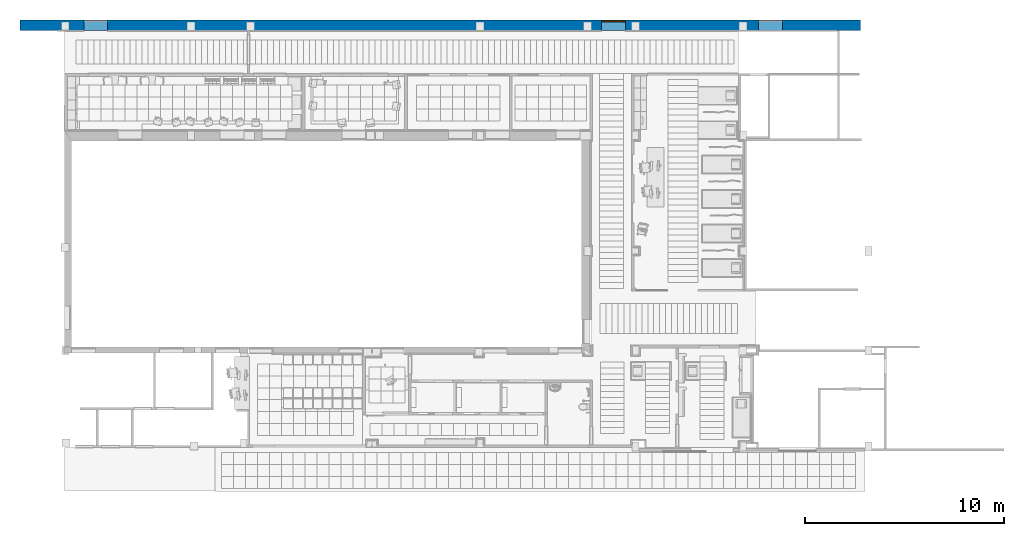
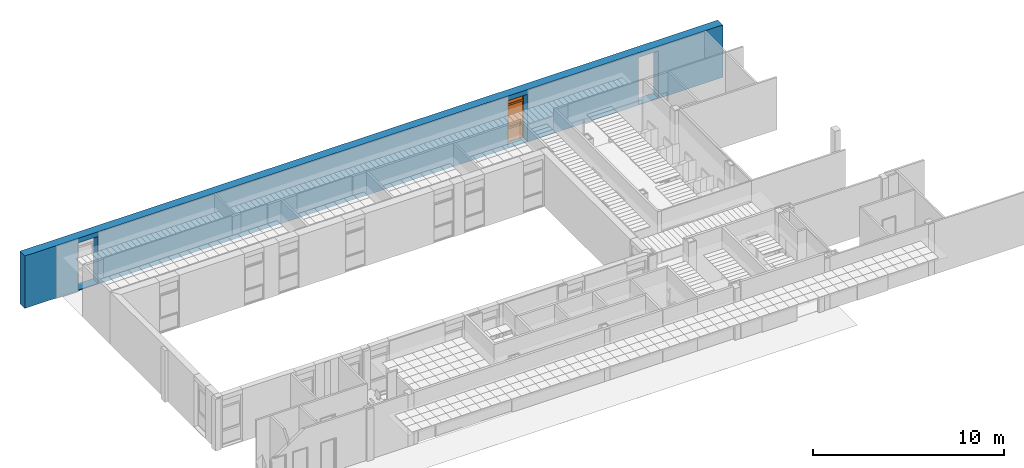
# One storey, part 41 of 68: 1 proxy, 1 wall, 3 openings.
"""IFC2X3 building model written with IfcOpenShell, lengths in millimetres."""

from ifc_helpers import new_model, entity, si_unit, converted_unit, derived_unit, money_unit, direction, frame, origin_with_axes, origin_2d_with_axis, place, context, subcontext, project, spatial, polyline, rectangle, outline, extrude, open_shell, faceted_brep, surface_model, source, transform, mapped, material, layer, layer_set, layer_usage, type_object, element, fill, save


model = new_model("IFC2X3")

# Units and contexts
model_context = context("Model", 3, precision=0.01, world=origin_with_axes(), true_north=direction((0.0, 1.0)))
body_context = subcontext(model_context, "Body", "Model", "MODEL_VIEW")
ifc_project = project(units=[si_unit("LENGTHUNIT", "METRE", prefix="MILLI"), si_unit("AREAUNIT", "SQUARE_METRE"), si_unit("VOLUMEUNIT", "CUBIC_METRE"), converted_unit("PLANEANGLEUNIT", "DEGREE", entity("IfcPlaneAngleMeasure", 0.0174532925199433), si_unit("PLANEANGLEUNIT", "RADIAN"), dimensions=[0, 0, 0, 0, 0, 0, 0]), money_unit("USD"), converted_unit("TIMEUNIT", "Year", entity("IfcTimeMeasure", 31557600.0), si_unit("TIMEUNIT", "SECOND"), dimensions=[0, 0, 1, 0, 0, 0, 0]), si_unit("MASSUNIT", "GRAM", prefix="KILO"), si_unit("THERMODYNAMICTEMPERATUREUNIT", "DEGREE_CELSIUS"), si_unit("LUMINOUSINTENSITYUNIT", "LUMEN"), si_unit("ENERGYUNIT", "JOULE", prefix="MEGA"), derived_unit("THERMALCONDUCTANCEUNIT", [(si_unit("POWERUNIT", "WATT"), 1), (si_unit("LENGTHUNIT", "METRE"), -1), (si_unit("THERMODYNAMICTEMPERATUREUNIT", "KELVIN"), -1)]), derived_unit("SPECIFICHEATCAPACITYUNIT", [(si_unit("ENERGYUNIT", "JOULE"), 1), (si_unit("MASSUNIT", "GRAM", prefix="KILO"), -1), (si_unit("THERMODYNAMICTEMPERATUREUNIT", "KELVIN"), -1)]), derived_unit("MASSDENSITYUNIT", [(si_unit("MASSUNIT", "GRAM", prefix="KILO"), 1), (si_unit("VOLUMEUNIT", "CUBIC_METRE"), -1)])], contexts=[model_context])

# Site, building, storey
site_placement = place(None, origin_with_axes())
site = spatial("IfcSite", under=ifc_project, at=site_placement, Name="Sitio", CompositionType="ELEMENT")
building_placement = place(site_placement, origin_with_axes())
building = spatial("IfcBuilding", under=site, at=building_placement, Name="Construcción", CompositionType="ELEMENT")
storey_placement = place(building_placement, origin_with_axes())
storey = spatial("IfcBuildingStorey", under=building, at=storey_placement, Name="PLANTA 1ª", CompositionType="ELEMENT", Elevation=0.0)

# Wall, openings, proxy
ifc_material_1 = material(Name="ARQ_CE217_Gero")
ifc_layer_1 = layer(ifc_material_1, 100.0, ventilated="UNKNOWN")
ifc_material_2 = material(Name="ARQ_AI031_Aillament_Poliestireno expandido EPS")
ifc_layer_2 = layer(ifc_material_2, 205.0, ventilated="UNKNOWN")
ifc_material_3 = material(Name="ARQ_CE218_Ceramic")
ifc_layer_3 = layer(ifc_material_3, 200.0, ventilated="UNKNOWN")
ifc_material_4 = material(Name="ARQ_AM246_Arrebossat_De_Guix")
ifc_layer_4 = layer(ifc_material_4, 10.0, ventilated="UNKNOWN")
ifc_layer_set = layer_set([ifc_layer_1, ifc_layer_2, ifc_layer_3, ifc_layer_4], Name="façana pati CR5")
ifc_layer_usage = layer_usage(ifc_layer_set, "AXIS2", "NEGATIVE", 515.0)
wall_type = type_object("IfcWallType", Name="façana pati CR5 515", PredefinedType="NOTDEFINED")
wall_placement = place(storey_placement, frame((11882.64037720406, 4378.454186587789, 0.0), z_axis=(0.0, 0.0, 1.0), x_axis=(-1.0, 0.0, 0.0)))
wall = element("IfcWallStandardCase", 1, at=wall_placement, inside=storey, type_object=wall_type, material=ifc_layer_usage, Name="MS-201", context=body_context, shape_type="SweptSolid", body=[
    extrude(outline(polyline([(0.0, 0.0), (42162.71352873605, 0.0), (42162.71352873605, 515.0000000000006), (0.0, 515.0000000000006), (0.0, 0.0)])), origin_with_axes(), (0.0, 0.0, 1.0), 3350.0),
])
opening_1_placement = place(wall_placement, frame((12393.17017963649, 0.0, 50.0), z_axis=(0.0, 0.0, 1.0), x_axis=(1.0, 0.0, 0.0)))
opening_1 = element("IfcOpeningElement", 2, at=opening_1_placement, cuts=wall, Name="V - 008", context=body_context, shape_type="SweptSolid", body=[
    extrude(rectangle(XDim=1199.999999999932, YDim=3000.0, at=origin_2d_with_axis()), frame((0.0, 49.99999999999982, 1500.0), z_axis=(0.0, 1.0, 0.0), x_axis=(1.0, 0.0, 0.0)), (0.0, 0.0, 1.0), 980.0),
    extrude(rectangle(XDim=1199.999999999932, YDim=3000.0, at=origin_2d_with_axis()), frame((0.0, 49.99999999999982, 1500.0), z_axis=(0.0, -1.0, 0.0), x_axis=(1.0, 0.0, 0.0)), (0.0, 0.0, 1.0), 565.0000000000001),
])
opening_2_placement = place(wall_placement, frame((4499.643658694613, 0.0, 50.0), z_axis=(0.0, 0.0, 1.0), x_axis=(1.0, 0.0, 0.0)))
element("IfcOpeningElement", 3, at=opening_2_placement, cuts=wall, Name="V - 009", context=body_context, shape_type="SweptSolid", body=[
    extrude(rectangle(XDim=1199.999999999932, YDim=3000.0, at=origin_2d_with_axis()), frame((0.0, 49.99999999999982, 1500.0), z_axis=(0.0, 1.0, 0.0), x_axis=(1.0, 0.0, 0.0)), (0.0, 0.0, 1.0), 980.0),
    extrude(rectangle(XDim=1199.999999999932, YDim=3000.0, at=origin_2d_with_axis()), frame((0.0, 49.99999999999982, 1500.0), z_axis=(0.0, -1.0, 0.0), x_axis=(1.0, 0.0, 0.0)), (0.0, 0.0, 1.0), 565.0000000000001),
])
opening_3_placement = place(wall_placement, frame((38361.73170307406, 0.0, 50.0), z_axis=(0.0, 0.0, 1.0), x_axis=(1.0, 0.0, 0.0)))
element("IfcOpeningElement", 4, at=opening_3_placement, cuts=wall, Name="V - 010", context=body_context, shape_type="SweptSolid", body=[
    extrude(rectangle(XDim=1199.999999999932, YDim=3000.0, at=origin_2d_with_axis()), frame((0.0, 49.99999999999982, 1500.0), z_axis=(0.0, -1.0, 0.0), x_axis=(-1.0, 0.0, 0.0)), (0.0, 0.0, -1.0), 980.0),
    extrude(rectangle(XDim=1199.999999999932, YDim=3000.0, at=origin_2d_with_axis()), frame((0.0, 49.99999999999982, 1500.0), z_axis=(0.0, 1.0, 0.0), x_axis=(-1.0, 0.0, 0.0)), (0.0, 0.0, -1.0), 565.0000000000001),
])
building_element_proxy_type = type_object("IfcBuildingElementProxyType", Name="Ventana Vertical Multi-Faja 27", PredefinedType="NOTDEFINED")
shared_shape = source(origin_with_axes(), body_context, "Body", "SurfaceModel", [
    faceted_brep([(574.9999999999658, 0.0, 925.0), (574.9999999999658, 0.0, 2375.0), (549.9999999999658, 0.0, 2375.0), (549.9999999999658, 0.0, 2450.0), (549.9999999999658, 0.0, 2950.0), (599.9999999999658, 0.0, 2950.0), (599.9999999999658, 0.0, 50.00000000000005), (549.9999999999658, 0.0, 50.00000000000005), (549.9999999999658, 0.0, 850.0), (549.9999999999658, 0.0, 925.0), (574.9999999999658, -25.00000000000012, 925.0), (574.9999999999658, -25.00000000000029, 2375.0), (549.9999999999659, -25.00000000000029, 2375.0), (549.9999999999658, -25.00000000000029, 2350.0), (549.9999999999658, -50.00000000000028, 2350.0), (549.9999999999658, -50.0000000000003, 2450.0), (549.9999999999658, -50.00000000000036, 2950.0), (599.9999999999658, -50.00000000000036, 2950.0), (599.9999999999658, -50.00000000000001, 50.00000000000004), (549.9999999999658, -50.00000000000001, 50.00000000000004), (549.9999999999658, -50.00000000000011, 850.0), (549.9999999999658, -25.00000000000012, 925.0), (549.9999999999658, -50.00000000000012, 950.0000000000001), (549.9999999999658, -25.00000000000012, 950.0000000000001)], [[[0, 1, 2, 3, 4, 5, 6, 7, 8, 9]], [[1, 0, 10, 11]], [[12, 2, 1, 11]], [[12, 13, 14, 15, 3, 2]], [[3, 15, 16, 4]], [[4, 16, 17, 5]], [[5, 17, 18, 6]], [[6, 18, 19, 7]], [[7, 19, 20, 8]], [[21, 9, 8, 20, 22, 23]], [[0, 9, 21, 10]], [[13, 12, 11, 10, 21, 23]], [[13, 23, 22, 14]], [[17, 16, 15, 14, 22, 20, 19, 18]]]),
    faceted_brep([(-574.9999999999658, 0.0, 925.0), (-549.9999999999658, 0.0, 925.0), (-549.9999999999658, 0.0, 850.0), (-549.9999999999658, 0.0, 50.00000000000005), (-599.9999999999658, 0.0, 50.00000000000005), (-599.9999999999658, 0.0, 2950.0), (-549.9999999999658, 0.0, 2950.0), (-549.9999999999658, 0.0, 2450.0), (-549.9999999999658, 0.0, 2375.0), (-574.9999999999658, 0.0, 2375.0), (-574.9999999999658, -25.00000000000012, 925.0), (-549.9999999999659, -25.00000000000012, 925.0), (-549.9999999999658, -25.00000000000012, 950.0000000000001), (-549.9999999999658, -50.00000000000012, 950.0000000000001), (-549.9999999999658, -50.00000000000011, 850.0), (-549.9999999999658, -50.00000000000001, 50.00000000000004), (-599.9999999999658, -50.00000000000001, 50.00000000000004), (-599.9999999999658, -50.00000000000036, 2950.0), (-549.9999999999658, -50.00000000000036, 2950.0), (-549.9999999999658, -50.0000000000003, 2450.0), (-549.9999999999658, -25.00000000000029, 2375.0), (-549.9999999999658, -50.00000000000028, 2350.0), (-549.9999999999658, -25.00000000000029, 2350.0), (-574.9999999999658, -25.00000000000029, 2375.0)], [[[0, 1, 2, 3, 4, 5, 6, 7, 8, 9]], [[1, 0, 10, 11]], [[11, 12, 13, 14, 2, 1]], [[2, 14, 15, 3]], [[3, 15, 16, 4]], [[4, 16, 17, 5]], [[5, 17, 18, 6]], [[6, 18, 19, 7]], [[20, 8, 7, 19, 21, 22]], [[9, 8, 20, 23]], [[0, 9, 23, 10]], [[20, 22, 12, 11, 10, 23]], [[12, 22, 21, 13]], [[21, 19, 18, 17, 16, 15, 14, 13]]]),
    faceted_brep([(549.9999999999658, -25.00000000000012, 950.0000000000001), (-549.9999999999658, -25.00000000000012, 950.0000000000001), (-549.9999999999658, -50.00000000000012, 950.0000000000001), (549.9999999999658, -50.00000000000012, 950.0000000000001), (-549.9999999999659, -25.00000000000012, 925.0), (549.9999999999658, -25.00000000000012, 925.0), (-549.9999999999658, 0.0, 925.0), (-549.9999999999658, 0.0, 850.0), (-549.9999999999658, -50.00000000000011, 850.0), (549.9999999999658, -50.00000000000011, 850.0), (549.9999999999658, 0.0, 850.0), (549.9999999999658, 0.0, 925.0)], [[[0, 1, 2, 3]], [[4, 1, 0, 5]], [[4, 6, 7, 8, 2, 1]], [[3, 2, 8, 9]], [[5, 0, 3, 9, 10, 11]], [[11, 6, 4, 5]], [[6, 11, 10, 7]], [[10, 9, 8, 7]]]),
    faceted_brep([(549.9999999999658, 0.0, 2375.0), (-549.9999999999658, 0.0, 2375.0), (-549.9999999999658, 0.0, 2450.0), (549.9999999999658, 0.0, 2450.0), (-549.9999999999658, -25.00000000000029, 2375.0), (549.9999999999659, -25.00000000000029, 2375.0), (-549.9999999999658, -25.00000000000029, 2350.0), (-549.9999999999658, -50.00000000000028, 2350.0), (-549.9999999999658, -50.0000000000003, 2450.0), (549.9999999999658, -50.0000000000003, 2450.0), (549.9999999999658, -50.00000000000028, 2350.0), (549.9999999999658, -25.00000000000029, 2350.0)], [[[0, 1, 2, 3]], [[4, 1, 0, 5]], [[4, 6, 7, 8, 2, 1]], [[2, 8, 9, 3]], [[5, 0, 3, 9, 10, 11]], [[6, 4, 5, 11]], [[6, 11, 10, 7]], [[9, 8, 7, 10]]]),
    faceted_brep([(-549.9999999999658, -50.00000000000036, 2950.0), (-599.9999999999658, -50.00000000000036, 2950.0), (-599.9999999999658, 0.0, 2950.0), (-549.9999999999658, 0.0, 2950.0), (549.9999999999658, -50.00000000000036, 2950.0), (599.9999999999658, -50.00000000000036, 2950.0), (599.9999999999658, -50.00000000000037, 3000.0), (-599.9999999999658, -50.00000000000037, 3000.0), (-599.9999999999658, 0.0, 3000.0), (599.9999999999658, 0.0, 3000.0), (599.9999999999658, 0.0, 2950.0), (549.9999999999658, 0.0, 2950.0)], [[[0, 1, 2, 3]], [[0, 4, 5, 6, 7, 1]], [[1, 7, 8, 2]], [[3, 2, 8, 9, 10, 11]], [[4, 0, 3, 11]], [[5, 4, 11, 10]], [[6, 5, 10, 9]], [[7, 6, 9, 8]]]),
    faceted_brep([(549.9999999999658, -50.00000000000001, 50.0), (599.9999999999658, -50.00000000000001, 50.0), (599.9999999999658, 0.0, 50.00000000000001), (549.9999999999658, 0.0, 50.00000000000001), (-549.9999999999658, -50.00000000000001, 50.0), (-599.9999999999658, -50.00000000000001, 50.0), (-599.9999999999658, -50.0, 0.0), (599.9999999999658, -50.0, 0.0), (599.9999999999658, 0.0, 0.0), (-599.9999999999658, 0.0, 0.0), (-599.9999999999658, 0.0, 50.00000000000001), (-549.9999999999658, 0.0, 50.00000000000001)], [[[0, 1, 2, 3]], [[0, 4, 5, 6, 7, 1]], [[1, 7, 8, 2]], [[3, 2, 8, 9, 10, 11]], [[4, 0, 3, 11]], [[5, 4, 11, 10]], [[6, 5, 10, 9]], [[7, 6, 9, 8]]]),
    surface_model("IfcShellBasedSurfaceModel", [(549.9999999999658, -35.0, 49.99999999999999), (549.9999999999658, -35.0000000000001, 850.0), (-549.9999999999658, -35.0000000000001, 850.0), (-549.9999999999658, -35.0, 49.99999999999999)], [open_shell([[[0, 1, 2, 3]]])]),
    surface_model("IfcShellBasedSurfaceModel", [(549.9999999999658, -15.0, 49.99999999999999), (-549.9999999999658, -15.0, 49.99999999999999), (-549.9999999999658, -15.0000000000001, 850.0), (549.9999999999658, -15.0000000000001, 850.0)], [open_shell([[[0, 1, 2, 3]]])]),
    faceted_brep([(521.4999999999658, -25.00000000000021, 1677.0), (521.4999999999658, -37.00000000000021, 1677.0), (522.8397459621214, -37.00000000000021, 1682.0), (522.8397459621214, -25.00000000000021, 1682.0), (521.4999999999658, -25.0000000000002, 1623.0), (521.4999999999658, -37.0000000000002, 1623.0), (522.8397459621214, -37.0000000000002, 1618.0), (526.4999999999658, -37.0000000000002, 1614.339745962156), (531.4999999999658, -37.0000000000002, 1613.0), (543.4999999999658, -37.0000000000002, 1613.0), (548.4999999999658, -37.0000000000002, 1614.339745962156), (552.1602540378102, -37.0000000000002, 1618.0), (553.4999999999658, -37.0000000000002, 1623.0), (553.4999999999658, -37.00000000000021, 1677.0), (552.1602540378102, -37.00000000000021, 1682.0), (548.4999999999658, -37.00000000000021, 1685.660254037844), (543.4999999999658, -37.00000000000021, 1687.0), (531.4999999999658, -37.00000000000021, 1687.0), (526.4999999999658, -37.00000000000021, 1685.660254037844), (526.4999999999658, -25.00000000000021, 1685.660254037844), (531.4999999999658, -25.00000000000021, 1687.0), (543.4999999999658, -25.00000000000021, 1687.0), (548.4999999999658, -25.00000000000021, 1685.660254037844), (552.1602540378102, -25.00000000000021, 1682.0), (553.4999999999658, -25.00000000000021, 1677.0), (553.4999999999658, -25.0000000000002, 1623.0), (552.1602540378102, -25.0000000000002, 1618.0), (548.4999999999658, -25.0000000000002, 1614.339745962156), (543.4999999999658, -25.0000000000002, 1613.0), (531.4999999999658, -25.0000000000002, 1613.0), (526.4999999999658, -25.0000000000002, 1614.339745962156), (522.8397459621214, -25.0000000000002, 1618.0)], [[[0, 1, 2, 3]], [[4, 5, 1, 0]], [[1, 5, 6, 7, 8, 9, 10, 11, 12, 13, 14, 15, 16, 17, 18, 2]], [[3, 2, 18, 19]], [[0, 3, 19, 20, 21, 22, 23, 24, 25, 26, 27, 28, 29, 30, 31, 4]], [[31, 6, 5, 4]], [[30, 7, 6, 31]], [[29, 8, 7, 30]], [[28, 9, 8, 29]], [[27, 10, 9, 28]], [[26, 11, 10, 27]], [[25, 12, 11, 26]], [[24, 13, 12, 25]], [[23, 14, 13, 24]], [[22, 15, 14, 23]], [[21, 16, 15, 22]], [[20, 17, 16, 21]], [[19, 18, 17, 20]]]),
    faceted_brep([(537.4999999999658, -37.0000000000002, 1663.5), (537.4999999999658, -61.00000000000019, 1663.5), (544.2499999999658, -61.00000000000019, 1661.69134295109), (544.2499999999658, -37.0000000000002, 1661.69134295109), (530.7499999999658, -37.0000000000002, 1661.69134295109), (530.7499999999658, -61.00000000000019, 1661.69134295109), (525.8086570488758, -61.00000000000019, 1656.75), (523.9999999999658, -61.00000000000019, 1650.0), (525.808657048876, -61.00000000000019, 1643.25), (530.7499999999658, -61.00000000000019, 1638.30865704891), (537.4999999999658, -61.00000000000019, 1636.5), (544.2499999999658, -61.00000000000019, 1638.30865704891), (549.1913429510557, -61.00000000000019, 1643.25), (550.9999999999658, -61.00000000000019, 1650.0), (549.1913429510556, -61.00000000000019, 1656.75), (549.1913429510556, -37.0000000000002, 1656.75), (550.9999999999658, -37.0000000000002, 1650.0), (549.1913429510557, -37.0000000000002, 1643.25), (544.2499999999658, -37.0000000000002, 1638.30865704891), (537.4999999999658, -37.0000000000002, 1636.5), (530.7499999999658, -37.0000000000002, 1638.30865704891), (525.808657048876, -37.0000000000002, 1643.25), (523.9999999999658, -37.0000000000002, 1650.0), (525.8086570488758, -37.0000000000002, 1656.75)], [[[0, 1, 2, 3]], [[4, 5, 1, 0]], [[1, 5, 6, 7, 8, 9, 10, 11, 12, 13, 14, 2]], [[3, 2, 14, 15]], [[0, 3, 15, 16, 17, 18, 19, 20, 21, 22, 23, 4]], [[23, 6, 5, 4]], [[22, 7, 6, 23]], [[21, 8, 7, 22]], [[20, 9, 8, 21]], [[19, 10, 9, 20]], [[18, 11, 10, 19]], [[17, 12, 11, 18]], [[16, 13, 12, 17]], [[15, 14, 13, 16]]]),
    faceted_brep([(525.9999999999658, -61.00000000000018, 1543.0), (523.9999999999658, -61.00000000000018, 1546.0), (523.9999999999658, -61.00000000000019, 1650.0), (525.8086570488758, -61.00000000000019, 1656.75), (530.7499999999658, -61.00000000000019, 1661.69134295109), (537.4999999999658, -61.00000000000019, 1663.5), (544.2499999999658, -61.00000000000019, 1661.69134295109), (549.1913429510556, -61.00000000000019, 1656.75), (550.9999999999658, -61.00000000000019, 1650.0), (550.9999999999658, -61.00000000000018, 1546.0), (548.9999999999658, -61.00000000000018, 1543.0), (537.4999999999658, -61.00000000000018, 1540.0), (525.999999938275, -69.00000000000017, 1543.000000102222), (523.9999996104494, -69.00000000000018, 1545.999999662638), (523.9999996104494, -69.0000000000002, 1649.99999994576), (525.8086569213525, -69.0000000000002, 1656.749999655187), (530.7500002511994, -69.0000000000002, 1661.691342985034), (537.4999999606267, -69.0000000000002, 1663.500000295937), (544.2499996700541, -69.0000000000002, 1661.691342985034), (549.1913429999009, -69.0000000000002, 1656.749999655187), (551.000000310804, -69.0000000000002, 1649.99999994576), (551.000000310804, -69.00000000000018, 1545.999999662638), (548.9999999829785, -69.00000000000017, 1543.000000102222), (537.4999999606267, -69.00000000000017, 1539.999999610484), (527.8625374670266, -71.99999956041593, 1545.61451963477), (526.9999991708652, -71.99999956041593, 1546.908326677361), (526.9999991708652, -71.99999956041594, 1649.605042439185), (528.4983828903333, -71.99999956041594, 1655.197085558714), (532.3029143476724, -71.99999956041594, 1659.001617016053), (537.4999999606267, -71.99999956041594, 1660.394172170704), (542.697085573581, -71.99999956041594, 1659.001617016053), (546.50161703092, -71.99999956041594, 1655.197085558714), (548.0000007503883, -71.99999956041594, 1649.605042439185), (548.0000007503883, -71.99999956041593, 1546.908326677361), (547.1374624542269, -71.99999956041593, 1545.61451963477), (537.4999999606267, -71.99999956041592, 1543.100398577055)], [[[0, 1, 2, 3, 4, 5, 6, 7, 8, 9, 10, 11]], [[0, 12, 13, 1]], [[1, 13, 14, 2]], [[2, 14, 15, 3]], [[3, 15, 16, 4]], [[4, 16, 17, 5]], [[5, 17, 18, 6]], [[6, 18, 19, 7]], [[7, 19, 20, 8]], [[8, 20, 21, 9]], [[9, 21, 22, 10]], [[10, 22, 23, 11]], [[11, 23, 12, 0]], [[12, 24, 25, 13]], [[13, 25, 26, 14]], [[14, 26, 27, 15]], [[15, 27, 28, 16]], [[16, 28, 29, 17]], [[17, 29, 30, 18]], [[18, 30, 31, 19]], [[19, 31, 32, 20]], [[20, 32, 33, 21]], [[21, 33, 34, 22]], [[22, 34, 35, 23]], [[23, 35, 24, 12]], [[34, 33, 32, 31, 30, 29, 28, 27, 26, 25, 24, 35]]]),
    faceted_brep([(524.9999999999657, -25.00000000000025, 2325.0), (574.9999999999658, -25.00000000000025, 2325.0), (574.9999999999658, 24.99999999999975, 2325.0), (524.9999999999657, 24.99999999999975, 2325.0), (524.9999999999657, -25.00000000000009, 975.0000000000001), (574.9999999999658, -25.00000000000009, 975.0000000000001), (574.9999999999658, 24.99999999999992, 975.0000000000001), (524.9999999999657, 24.99999999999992, 975.0000000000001)], [[[0, 1, 2, 3]], [[0, 4, 5, 1]], [[1, 5, 6, 2]], [[3, 2, 6, 7]], [[4, 0, 3, 7]], [[5, 4, 7, 6]]]),
    faceted_brep([(-524.9999999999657, -25.00000000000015, 975.0000000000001), (-574.9999999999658, -25.00000000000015, 975.0000000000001), (-574.9999999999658, 24.99999999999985, 975.0000000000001), (-524.9999999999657, 24.99999999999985, 975.0000000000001), (-524.9999999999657, -25.00000000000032, 2325.0), (-574.9999999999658, -25.00000000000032, 2325.0), (-574.9999999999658, 24.99999999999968, 2325.0), (-524.9999999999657, 24.99999999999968, 2325.0)], [[[0, 1, 2, 3]], [[0, 4, 5, 1]], [[1, 5, 6, 2]], [[3, 2, 6, 7]], [[4, 0, 3, 7]], [[5, 4, 7, 6]]]),
    faceted_brep([(-574.9999999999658, -25.00000000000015, 925.0), (-574.9999999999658, -25.00000000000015, 975.0000000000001), (-574.9999999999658, 24.99999999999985, 975.0000000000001), (-574.9999999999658, 24.99999999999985, 925.0), (574.9999999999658, -25.00000000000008, 925.0), (574.9999999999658, -25.00000000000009, 975.0000000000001), (524.9999999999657, -25.00000000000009, 975.0000000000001), (-524.9999999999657, -25.00000000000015, 975.0000000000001), (-524.9999999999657, 24.99999999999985, 975.0000000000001), (524.9999999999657, 24.99999999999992, 975.0000000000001), (574.9999999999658, 24.99999999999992, 975.0000000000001), (574.9999999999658, 24.99999999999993, 925.0)], [[[0, 1, 2, 3]], [[0, 4, 5, 6, 7, 1]], [[1, 7, 8, 2]], [[3, 2, 8, 9, 10, 11]], [[4, 0, 3, 11]], [[5, 4, 11, 10]], [[6, 5, 10, 9]], [[7, 6, 9, 8]]]),
    faceted_brep([(574.9999999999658, -25.00000000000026, 2375.0), (574.9999999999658, -25.00000000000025, 2325.0), (574.9999999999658, 24.99999999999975, 2325.0), (574.9999999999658, 24.99999999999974, 2375.0), (-574.9999999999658, -25.00000000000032, 2375.0), (-574.9999999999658, -25.00000000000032, 2325.0), (-524.9999999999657, -25.00000000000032, 2325.0), (524.9999999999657, -25.00000000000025, 2325.0), (524.9999999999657, 24.99999999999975, 2325.0), (-524.9999999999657, 24.99999999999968, 2325.0), (-574.9999999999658, 24.99999999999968, 2325.0), (-574.9999999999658, 24.99999999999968, 2375.0)], [[[0, 1, 2, 3]], [[0, 4, 5, 6, 7, 1]], [[1, 7, 8, 2]], [[3, 2, 8, 9, 10, 11]], [[4, 0, 3, 11]], [[5, 4, 11, 10]], [[6, 5, 10, 9]], [[7, 6, 9, 8]]]),
    surface_model("IfcShellBasedSurfaceModel", [(524.9999999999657, -10.00000000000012, 975.0000000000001), (524.9999999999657, -10.00000000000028, 2325.0), (-524.9999999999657, -10.00000000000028, 2325.0), (-524.9999999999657, -10.00000000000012, 975.0000000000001)], [open_shell([[[0, 1, 2, 3]]])]),
    surface_model("IfcShellBasedSurfaceModel", [(524.9999999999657, 9.999999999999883, 975.0000000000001), (-524.9999999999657, 9.999999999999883, 975.0000000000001), (-524.9999999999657, 9.99999999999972, 2325.0), (524.9999999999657, 9.99999999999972, 2325.0)], [open_shell([[[0, 1, 2, 3]]])]),
    surface_model("IfcShellBasedSurfaceModel", [(549.9999999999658, -35.0000000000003, 2450.0), (549.9999999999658, -35.00000000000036, 2950.0), (-549.9999999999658, -35.00000000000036, 2950.0), (-549.9999999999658, -35.0000000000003, 2450.0)], [open_shell([[[0, 1, 2, 3]]])]),
    surface_model("IfcShellBasedSurfaceModel", [(549.9999999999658, -15.0000000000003, 2450.0), (-549.9999999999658, -15.0000000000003, 2450.0), (-549.9999999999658, -15.00000000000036, 2950.0), (549.9999999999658, -15.00000000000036, 2950.0)], [open_shell([[[0, 1, 2, 3]]])]),
])
proxy_placement = place(opening_1_placement, frame((599.9999999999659, 0.0, 0.0), z_axis=(0.0, 0.0, 1.0), x_axis=(-1.0, 0.0, 0.0)))
proxy = element("IfcBuildingElementProxy", 5, at=proxy_placement, inside=storey, type_object=building_element_proxy_type, Name="V - 008", context=body_context, shape_type="MappedRepresentation", body=[
    mapped(shared_shape, transform((599.9999999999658, -49.99999999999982, 0.0))),
])
fill(opening_1, proxy)

save(model, "model.ifc")
